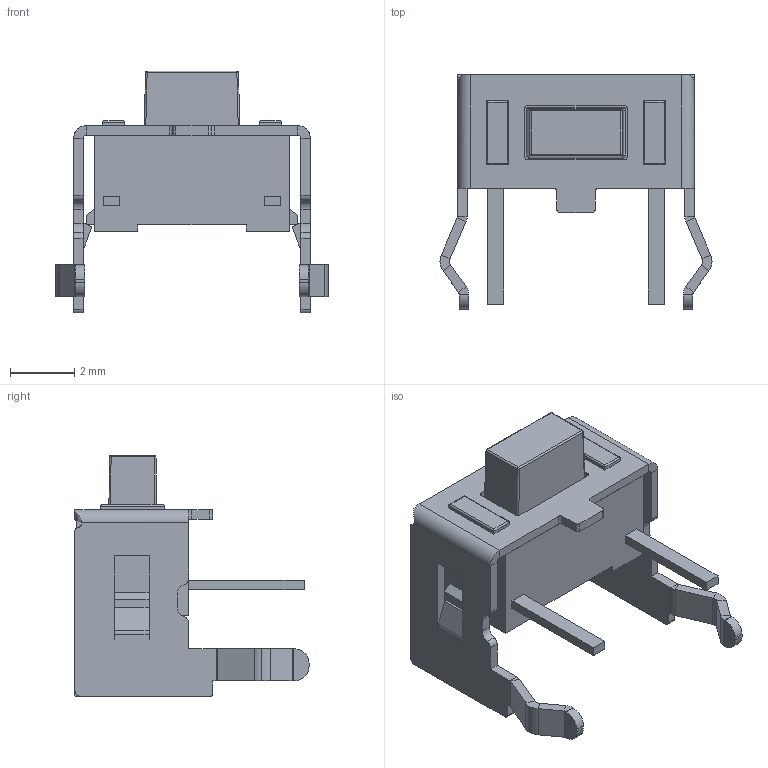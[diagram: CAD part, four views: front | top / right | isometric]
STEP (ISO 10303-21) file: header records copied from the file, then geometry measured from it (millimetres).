
FILE_DESCRIPTION((''),'2;1');
FILE_NAME('PRT0004','2024-01-07T',('WYH'),(''),'PRO/ENGINEER BY PARAMETRIC TECHNOLOGY CORPORATION, 2013040','PRO/ENGINEER BY PARAMETRIC TECHNOLOGY CORPORATION, 2013040','');
FILE_SCHEMA(('CONFIG_CONTROL_DESIGN'));
Length unit declared in the file: millimetre
Products named in the file (1): PRT0004
Bounding box: 8.5 x 7.31 x 7.55 mm (x, y, z)
Volume: 78.9 mm3; surface area: 329.7 mm2
Topology: 1 solids, 2 shells, 409 faces, 1071 edges, 670 vertices
Faces by surface type: plane 269, cylinder 128, bspline 8, sphere 4
Entity records: 12776 total; most frequent: CARTESIAN_POINT 2693, ORIENTED_EDGE 2134, DIRECTION 2015, EDGE_CURVE 1067, VECTOR 797, LINE 797, VERTEX_POINT 670, AXIS2_PLACEMENT_3D 609
